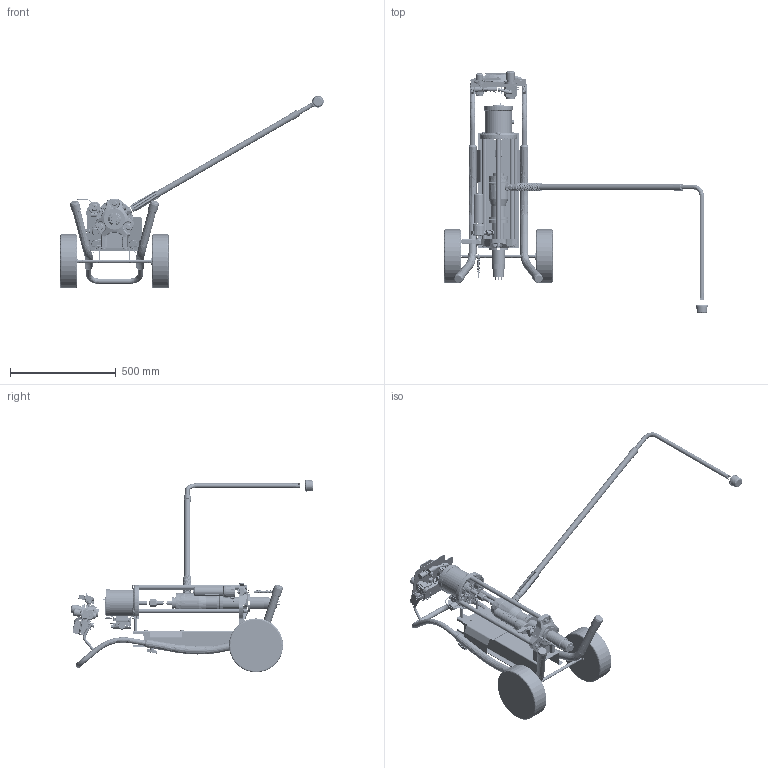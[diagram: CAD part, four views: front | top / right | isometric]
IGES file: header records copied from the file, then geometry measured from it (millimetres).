
Start section:  PTC IGES file: g15b05-en-l.igs
Global section: file name: g15b05-en-l.igs; native system: Creo Parametric by PTC Inc.; preprocessor: 2021072; author: qtmwp1; organization: Unknown; date: 20231107.143759; units: inch
Bounding box: 1246.89 x 1149.21 x 911.57 mm (x, y, z)
Surface area: 2292389.1 mm2 (no closed solid volume)
Topology: 0 solids, 0 shells, 1990 faces, 10402 edges, 10390 vertices
Faces by surface type: revolution 1241, bspline 749
